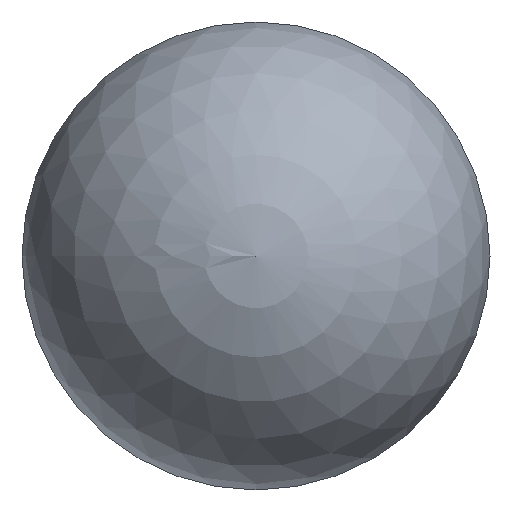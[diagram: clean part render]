
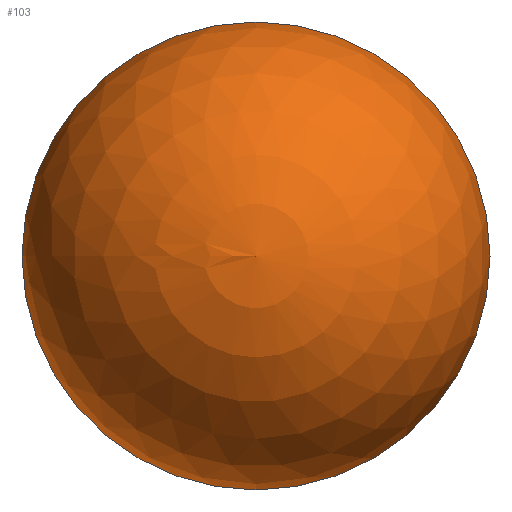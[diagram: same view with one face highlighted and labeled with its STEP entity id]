
A CAD part, left-side view. The second image highlights one B-rep face of the part: STEP entity #103.
In plain terms, the highlighted spherical face has radius 2 mm.
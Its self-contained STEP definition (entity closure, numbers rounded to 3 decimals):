
#101=SPHERICAL_SURFACE('',#134,2.);
#103=ADVANCED_FACE('',(#108),#101,.T.);
#108=FACE_OUTER_BOUND('',#110,.T.);
#110=EDGE_LOOP('',(#116));
#116=ORIENTED_EDGE('',*,*,#125,.T.);
#122=VERTEX_POINT('',#159);
#125=EDGE_CURVE('',#122,#122,#128,.T.);
#128=CIRCLE('',#133,2.);
#133=AXIS2_PLACEMENT_3D('',#158,#144,#145);
#134=AXIS2_PLACEMENT_3D('',#160,#146,#147);
#144=DIRECTION('',(-1.,0.,0.));
#145=DIRECTION('',(0.,-1.,0.));
#146=DIRECTION('',(-1.,0.,0.));
#147=DIRECTION('',(0.,1.,0.));
#158=CARTESIAN_POINT('',(7878.475,6116.815,0.));
#159=CARTESIAN_POINT('',(7878.475,6114.815,0.));
#160=CARTESIAN_POINT('',(7878.477,6116.815,0.));
